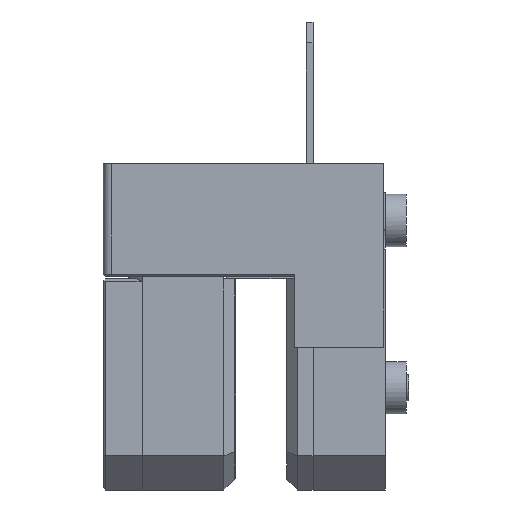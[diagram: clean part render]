
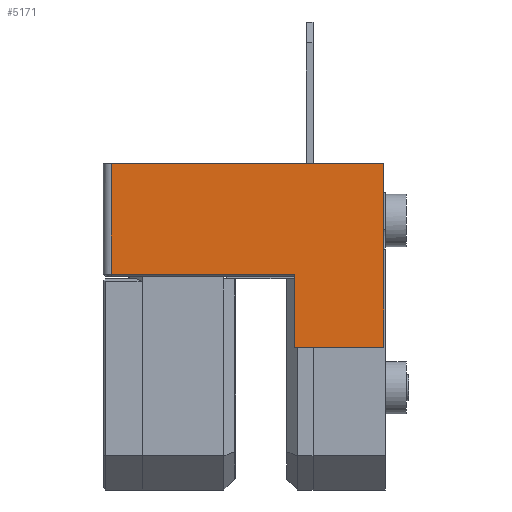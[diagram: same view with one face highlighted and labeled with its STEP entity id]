
A CAD part, left-side view. The second image highlights one B-rep face of the part: STEP entity #5171.
In plain terms, the highlighted planar face has unit normal (-1, 0, 0).
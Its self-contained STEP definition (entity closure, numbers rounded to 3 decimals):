
#57 = VECTOR ( 'NONE', #13724, 1000. ) ;
#484 = VECTOR ( 'NONE', #7909, 1000. ) ;
#1074 = LINE ( 'NONE', #4467, #484 ) ;
#1222 = DIRECTION ( 'NONE',  ( 0., -1., 0. ) ) ;
#1782 = ORIENTED_EDGE ( 'NONE', *, *, #11047, .T. ) ;
#2237 = LINE ( 'NONE', #13858, #12223 ) ;
#2730 = ORIENTED_EDGE ( 'NONE', *, *, #4457, .F. ) ;
#2763 = CARTESIAN_POINT ( 'NONE',  ( -12.996, 8.138, 30.618 ) ) ;
#2774 = VERTEX_POINT ( 'NONE', #12593 ) ;
#3267 = VECTOR ( 'NONE', #13142, 1000. ) ;
#3555 = VERTEX_POINT ( 'NONE', #9057 ) ;
#3586 = CARTESIAN_POINT ( 'NONE',  ( -12.996, 8.238, 26.398 ) ) ;
#3803 = VERTEX_POINT ( 'NONE', #2763 ) ;
#3954 = EDGE_CURVE ( 'NONE', #2774, #11117, #1074, .T. ) ;
#4047 = CARTESIAN_POINT ( 'NONE',  ( -12.996, 8.238, 3.618 ) ) ;
#4163 = ORIENTED_EDGE ( 'NONE', *, *, #3954, .T. ) ;
#4457 = EDGE_CURVE ( 'NONE', #3803, #14730, #2237, .T. ) ;
#4467 = CARTESIAN_POINT ( 'NONE',  ( -12.996, 1.138, 3.618 ) ) ;
#4557 = DIRECTION ( 'NONE',  ( 0., -1., 0. ) ) ;
#5171 = ADVANCED_FACE ( 'NONE', ( #7742 ), #7569, .T. ) ;
#5506 = CARTESIAN_POINT ( 'NONE',  ( -12.996, -39.676, 23.618 ) ) ;
#5823 = CARTESIAN_POINT ( 'NONE',  ( -12.996, -2.262, 23.618 ) ) ;
#5830 = EDGE_CURVE ( 'NONE', #12102, #11117, #13643, .T. ) ;
#6081 = LINE ( 'NONE', #13228, #3267 ) ;
#6582 = DIRECTION ( 'NONE',  ( -1., 0., 0. ) ) ;
#7569 = PLANE ( 'NONE',  #13712 ) ;
#7742 = FACE_OUTER_BOUND ( 'NONE', #14061, .T. ) ;
#7840 = ORIENTED_EDGE ( 'NONE', *, *, #10958, .T. ) ;
#7909 = DIRECTION ( 'NONE',  ( 0., 0., -1. ) ) ;
#8863 = DIRECTION ( 'NONE',  ( 0., 0., 1. ) ) ;
#8869 = VECTOR ( 'NONE', #4557, 1000. ) ;
#9057 = CARTESIAN_POINT ( 'NONE',  ( -12.996, 8.138, 26.398 ) ) ;
#10323 = CARTESIAN_POINT ( 'NONE',  ( -12.996, -2.262, 30.618 ) ) ;
#10491 = ORIENTED_EDGE ( 'NONE', *, *, #12622, .T. ) ;
#10958 = EDGE_CURVE ( 'NONE', #3555, #2774, #11686, .T. ) ;
#11047 = EDGE_CURVE ( 'NONE', #12102, #14730, #13061, .T. ) ;
#11098 = CARTESIAN_POINT ( 'NONE',  ( -12.996, 1.138, 23.618 ) ) ;
#11117 = VERTEX_POINT ( 'NONE', #11098 ) ;
#11686 = LINE ( 'NONE', #3586, #8869 ) ;
#11848 = DIRECTION ( 'NONE',  ( 0., 0., 1. ) ) ;
#12010 = CARTESIAN_POINT ( 'NONE',  ( -12.996, -2.262, 30.618 ) ) ;
#12102 = VERTEX_POINT ( 'NONE', #5823 ) ;
#12223 = VECTOR ( 'NONE', #1222, 1000. ) ;
#12593 = CARTESIAN_POINT ( 'NONE',  ( -12.996, 1.138, 26.398 ) ) ;
#12622 = EDGE_CURVE ( 'NONE', #3803, #3555, #6081, .T. ) ;
#13061 = LINE ( 'NONE', #12010, #14701 ) ;
#13142 = DIRECTION ( 'NONE',  ( 0., 0., -1. ) ) ;
#13228 = CARTESIAN_POINT ( 'NONE',  ( -12.996, 8.138, 3.618 ) ) ;
#13394 = ORIENTED_EDGE ( 'NONE', *, *, #5830, .F. ) ;
#13643 = LINE ( 'NONE', #5506, #57 ) ;
#13712 = AXIS2_PLACEMENT_3D ( 'NONE', #4047, #6582, #8863 ) ;
#13724 = DIRECTION ( 'NONE',  ( 0., 1., 0. ) ) ;
#13858 = CARTESIAN_POINT ( 'NONE',  ( -12.996, -39.676, 30.618 ) ) ;
#14061 = EDGE_LOOP ( 'NONE', ( #13394, #1782, #2730, #10491, #7840, #4163 ) ) ;
#14701 = VECTOR ( 'NONE', #11848, 1000. ) ;
#14730 = VERTEX_POINT ( 'NONE', #10323 ) ;
